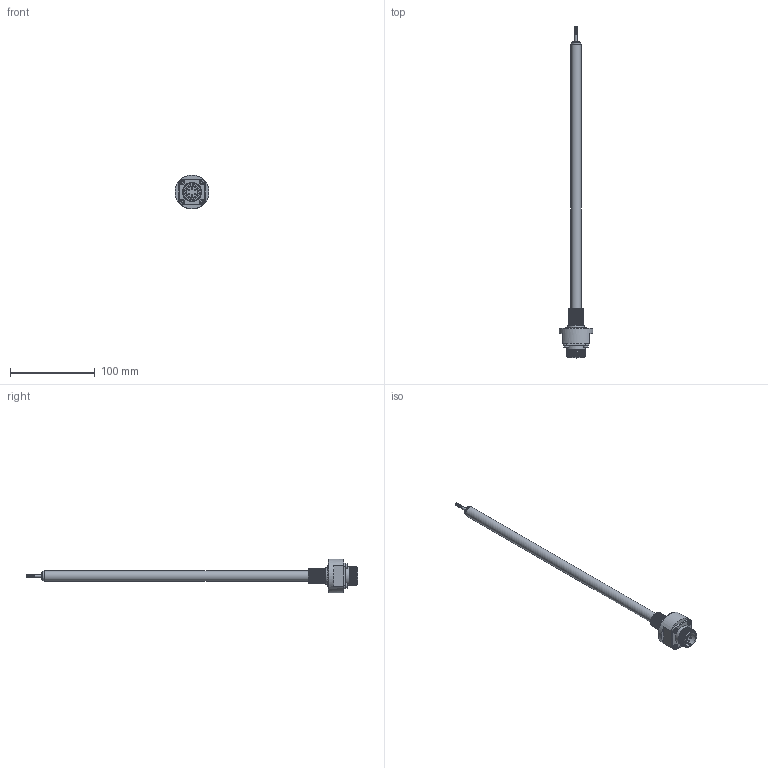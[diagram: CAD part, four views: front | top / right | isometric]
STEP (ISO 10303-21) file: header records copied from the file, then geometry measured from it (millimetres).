
FILE_DESCRIPTION( ( 'STEP AP214' ), '1' );
FILE_NAME( 'N:/Engineering/CAD_Solid/LVDT/HYD/Kunden-3D-Modell/SM160-HYD-18-S.stp', '2011-12-14T13:52:40', ( ' ' ), ( ' ' ), 'XStep 1.0', ' ', ' ' );
FILE_SCHEMA( ( 'CONFIG_CONTROL_DESIGN) ( )' ) );
Length unit declared in the file: metre
Products named in the file (17): 1; 2; 3; 4; 5; 6; 7; 8; 9; 10; 11; 12; 13; 14; 15; 16; 17
Bounding box: 40 x 391.9 x 40 mm (x, y, z)
Surface area: 24186.3 mm2
Topology: 1 solids, 105 shells, 113 faces, 520 edges, 476 vertices
Faces by surface type: plane 52, cylinder 36, bspline 13, cone 7, sphere 4, torus 1
Full cylindrical faces by diameter (mm): 1.6 x6, 2.4 x1, 3 x1, 6 x4, 8 x1, 11 x1, 12 x1, 15.8 x1, 17.6 x1, 20.2 x1, 22.3 x7, 24 x1, 40 x1
Entity records: 15541 total; most frequent: CARTESIAN_POINT 11241, DIRECTION 825, ORIENTED_EDGE 448, EDGE_CURVE 448, VERTEX_POINT 448, AXIS2_PLACEMENT_3D 323, CIRCLE 214, LINE 179
